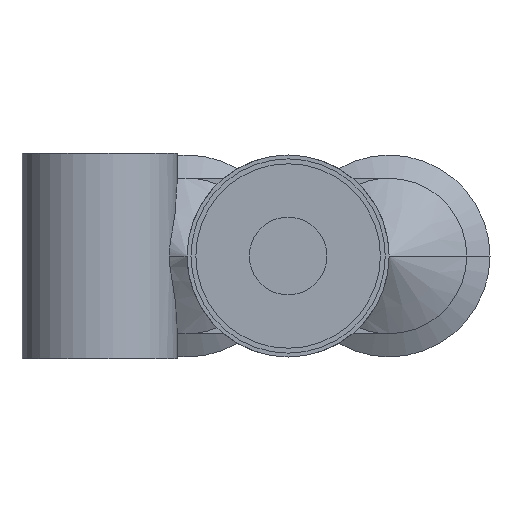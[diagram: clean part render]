
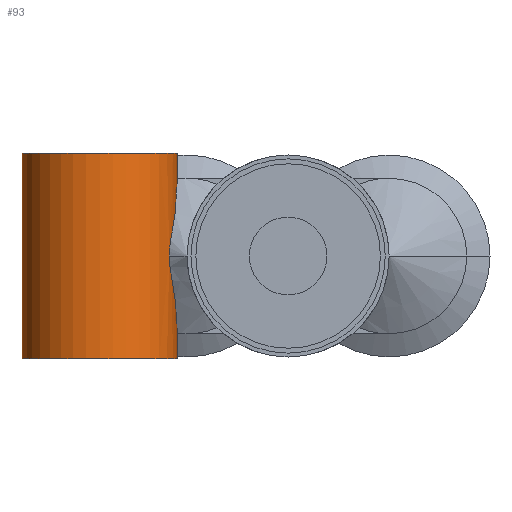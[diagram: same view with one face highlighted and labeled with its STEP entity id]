
A CAD part, front view. The second image highlights one B-rep face of the part: STEP entity #93.
In plain terms, the highlighted cylindrical face has radius 4 mm (diameter 8 mm), a partial arc.
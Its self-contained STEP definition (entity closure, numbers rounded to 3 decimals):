
#93 = ADVANCED_FACE( '', ( #184 ), #185, .T. );
#184 = FACE_OUTER_BOUND( '', #342, .T. );
#185 = CYLINDRICAL_SURFACE( '', #343, 4. );
#342 = EDGE_LOOP( '', ( #600, #601, #602, #603, #604, #605, #606 ) );
#343 = AXIS2_PLACEMENT_3D( '', #607, #608, #609 );
#600 = ORIENTED_EDGE( '', *, *, #1068, .F. );
#601 = ORIENTED_EDGE( '', *, *, #1069, .F. );
#602 = ORIENTED_EDGE( '', *, *, #1070, .F. );
#603 = ORIENTED_EDGE( '', *, *, #1071, .T. );
#604 = ORIENTED_EDGE( '', *, *, #1072, .F. );
#605 = ORIENTED_EDGE( '', *, *, #1015, .F. );
#606 = ORIENTED_EDGE( '', *, *, #1073, .F. );
#607 = CARTESIAN_POINT( '', ( -9.7, 17.2, 5.3 ) );
#608 = DIRECTION( '', ( 0., 0., 1. ) );
#609 = DIRECTION( '', ( 1., 0., 0. ) );
#1015 = EDGE_CURVE( '', #1190, #1193, #1194, .T. );
#1068 = EDGE_CURVE( '', #1291, #1292, #1293, .T. );
#1069 = EDGE_CURVE( '', #1294, #1291, #1295, .T. );
#1070 = EDGE_CURVE( '', #1296, #1294, #1297, .T. );
#1071 = EDGE_CURVE( '', #1296, #1298, #1299, .T. );
#1072 = EDGE_CURVE( '', #1193, #1298, #1300, .T. );
#1073 = EDGE_CURVE( '', #1292, #1190, #1301, .T. );
#1190 = VERTEX_POINT( '', #1456 );
#1193 = VERTEX_POINT( '', #1460 );
#1194 = B_SPLINE_CURVE_WITH_KNOTS( '', 3, ( #1461, #1462, #1463, #1464, #1465, #1466, #1467, #1468, #1469, #1470, #1471, #1472, #1473, #1474, #1475, #1476, #1477, #1478, #1479, #1480, #1481, #1482, #1483, #1484, #1485, #1486 ), .UNSPECIFIED., .F., .F., ( 4, 2, 2, 2, 2, 2, 2, 2, 2, 2, 2, 2, 4 ), ( 1.163, 1.377, 2.754, 3.442, 4.131, 4.819, 5.508, 6.196, 6.885, 7.573, 8.262, 9.639, 9.853 ), .UNSPECIFIED. );
#1291 = VERTEX_POINT( '', #1672 );
#1292 = VERTEX_POINT( '', #1673 );
#1293 = LINE( '', #1674, #1675 );
#1294 = VERTEX_POINT( '', #1676 );
#1295 = CIRCLE( '', #1677, 4. );
#1296 = VERTEX_POINT( '', #1678 );
#1297 = LINE( '', #1679, #1680 );
#1298 = VERTEX_POINT( '', #1681 );
#1299 = CIRCLE( '', #1682, 4. );
#1300 = LINE( '', #1683, #1684 );
#1301 = B_SPLINE_CURVE_WITH_KNOTS( '', 3, ( #1685, #1686, #1687, #1688, #1689, #1690, #1691, #1692, #1693, #1694, #1695, #1696, #1697, #1698, #1699, #1700, #1701, #1702, #1703, #1704, #1705, #1706, #1707, #1708, #1709, #1710 ), .UNSPECIFIED., .F., .F., ( 4, 2, 2, 2, 2, 2, 2, 2, 2, 2, 2, 2, 4 ), ( 1.163, 1.377, 2.754, 3.442, 4.131, 4.819, 5.508, 6.196, 6.885, 7.573, 8.262, 9.639, 9.853 ), .UNSPECIFIED. );
#1456 = CARTESIAN_POINT( '', ( -6.115, 15.426, 0. ) );
#1460 = CARTESIAN_POINT( '', ( -5.7, 17.2, -3.969 ) );
#1461 = CARTESIAN_POINT( '', ( -5.7, 17.2, 3.969 ) );
#1462 = CARTESIAN_POINT( '', ( -5.7, 17.163, 3.904 ) );
#1463 = CARTESIAN_POINT( '', ( -5.701, 17.126, 3.839 ) );
#1464 = CARTESIAN_POINT( '', ( -5.708, 16.852, 3.357 ) );
#1465 = CARTESIAN_POINT( '', ( -5.736, 16.614, 2.935 ) );
#1466 = CARTESIAN_POINT( '', ( -5.807, 16.272, 2.308 ) );
#1467 = CARTESIAN_POINT( '', ( -5.836, 16.161, 2.1 ) );
#1468 = CARTESIAN_POINT( '', ( -5.899, 15.949, 1.687 ) );
#1469 = CARTESIAN_POINT( '', ( -5.934, 15.848, 1.482 ) );
#1470 = CARTESIAN_POINT( '', ( -6.004, 15.666, 1.071 ) );
#1471 = CARTESIAN_POINT( '', ( -6.04, 15.586, 0.866 ) );
#1472 = CARTESIAN_POINT( '', ( -6.095, 15.465, 0.445 ) );
#1473 = CARTESIAN_POINT( '', ( -6.115, 15.426, 0.229 ) );
#1474 = CARTESIAN_POINT( '', ( -6.115, 15.426, -0.229 ) );
#1475 = CARTESIAN_POINT( '', ( -6.095, 15.465, -0.445 ) );
#1476 = CARTESIAN_POINT( '', ( -6.04, 15.586, -0.866 ) );
#1477 = CARTESIAN_POINT( '', ( -6.004, 15.666, -1.071 ) );
#1478 = CARTESIAN_POINT( '', ( -5.934, 15.848, -1.482 ) );
#1479 = CARTESIAN_POINT( '', ( -5.899, 15.949, -1.687 ) );
#1480 = CARTESIAN_POINT( '', ( -5.836, 16.161, -2.1 ) );
#1481 = CARTESIAN_POINT( '', ( -5.807, 16.272, -2.308 ) );
#1482 = CARTESIAN_POINT( '', ( -5.736, 16.614, -2.935 ) );
#1483 = CARTESIAN_POINT( '', ( -5.708, 16.852, -3.357 ) );
#1484 = CARTESIAN_POINT( '', ( -5.701, 17.126, -3.839 ) );
#1485 = CARTESIAN_POINT( '', ( -5.7, 17.163, -3.904 ) );
#1486 = CARTESIAN_POINT( '', ( -5.7, 17.2, -3.969 ) );
#1672 = CARTESIAN_POINT( '', ( -5.7, 17.2, 5.3 ) );
#1673 = CARTESIAN_POINT( '', ( -5.7, 17.2, 3.969 ) );
#1674 = CARTESIAN_POINT( '', ( -5.7, 17.2, 5.3 ) );
#1675 = VECTOR( '', #2072, 1. );
#1676 = CARTESIAN_POINT( '', ( -13.7, 17.2, 5.3 ) );
#1677 = AXIS2_PLACEMENT_3D( '', #2073, #2074, #2075 );
#1678 = CARTESIAN_POINT( '', ( -13.7, 17.2, -5.3 ) );
#1679 = CARTESIAN_POINT( '', ( -13.7, 17.2, 5.3 ) );
#1680 = VECTOR( '', #2076, 1. );
#1681 = CARTESIAN_POINT( '', ( -5.7, 17.2, -5.3 ) );
#1682 = AXIS2_PLACEMENT_3D( '', #2077, #2078, #2079 );
#1683 = CARTESIAN_POINT( '', ( -5.7, 17.2, 5.3 ) );
#1684 = VECTOR( '', #2080, 1. );
#1685 = CARTESIAN_POINT( '', ( -5.7, 17.2, 3.969 ) );
#1686 = CARTESIAN_POINT( '', ( -5.7, 17.163, 3.904 ) );
#1687 = CARTESIAN_POINT( '', ( -5.701, 17.126, 3.839 ) );
#1688 = CARTESIAN_POINT( '', ( -5.708, 16.852, 3.357 ) );
#1689 = CARTESIAN_POINT( '', ( -5.736, 16.614, 2.935 ) );
#1690 = CARTESIAN_POINT( '', ( -5.807, 16.272, 2.308 ) );
#1691 = CARTESIAN_POINT( '', ( -5.836, 16.161, 2.1 ) );
#1692 = CARTESIAN_POINT( '', ( -5.899, 15.949, 1.687 ) );
#1693 = CARTESIAN_POINT( '', ( -5.934, 15.848, 1.482 ) );
#1694 = CARTESIAN_POINT( '', ( -6.004, 15.666, 1.071 ) );
#1695 = CARTESIAN_POINT( '', ( -6.04, 15.586, 0.866 ) );
#1696 = CARTESIAN_POINT( '', ( -6.095, 15.465, 0.445 ) );
#1697 = CARTESIAN_POINT( '', ( -6.115, 15.426, 0.229 ) );
#1698 = CARTESIAN_POINT( '', ( -6.115, 15.426, -0.229 ) );
#1699 = CARTESIAN_POINT( '', ( -6.095, 15.465, -0.445 ) );
#1700 = CARTESIAN_POINT( '', ( -6.04, 15.586, -0.866 ) );
#1701 = CARTESIAN_POINT( '', ( -6.004, 15.666, -1.071 ) );
#1702 = CARTESIAN_POINT( '', ( -5.934, 15.848, -1.482 ) );
#1703 = CARTESIAN_POINT( '', ( -5.899, 15.949, -1.687 ) );
#1704 = CARTESIAN_POINT( '', ( -5.836, 16.161, -2.1 ) );
#1705 = CARTESIAN_POINT( '', ( -5.807, 16.272, -2.308 ) );
#1706 = CARTESIAN_POINT( '', ( -5.736, 16.614, -2.935 ) );
#1707 = CARTESIAN_POINT( '', ( -5.708, 16.852, -3.357 ) );
#1708 = CARTESIAN_POINT( '', ( -5.701, 17.126, -3.839 ) );
#1709 = CARTESIAN_POINT( '', ( -5.7, 17.163, -3.904 ) );
#1710 = CARTESIAN_POINT( '', ( -5.7, 17.2, -3.969 ) );
#2072 = DIRECTION( '', ( 0., 0., -1. ) );
#2073 = CARTESIAN_POINT( '', ( -9.7, 17.2, 5.3 ) );
#2074 = DIRECTION( '', ( 0., 0., 1. ) );
#2075 = DIRECTION( '', ( 1., 0., 0. ) );
#2076 = DIRECTION( '', ( 0., 0., 1. ) );
#2077 = CARTESIAN_POINT( '', ( -9.7, 17.2, -5.3 ) );
#2078 = DIRECTION( '', ( 0., 0., 1. ) );
#2079 = DIRECTION( '', ( 1., 0., 0. ) );
#2080 = DIRECTION( '', ( 0., 0., -1. ) );
